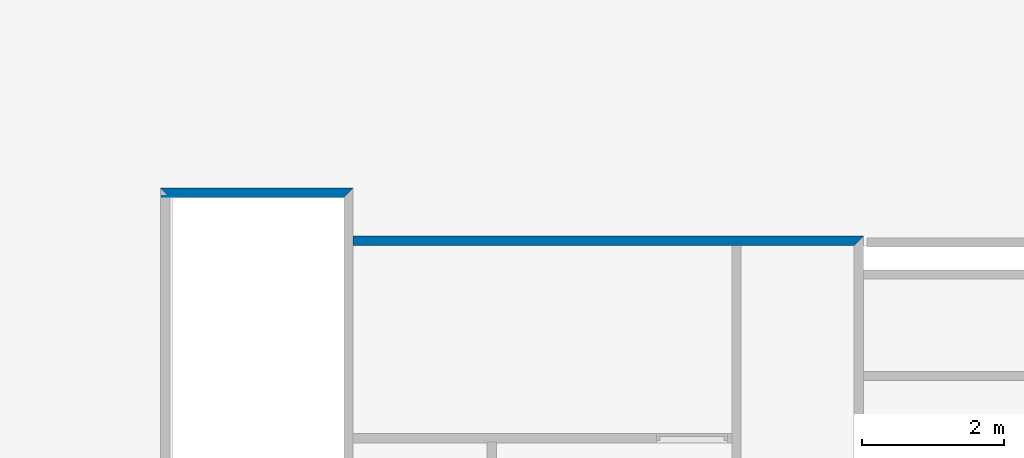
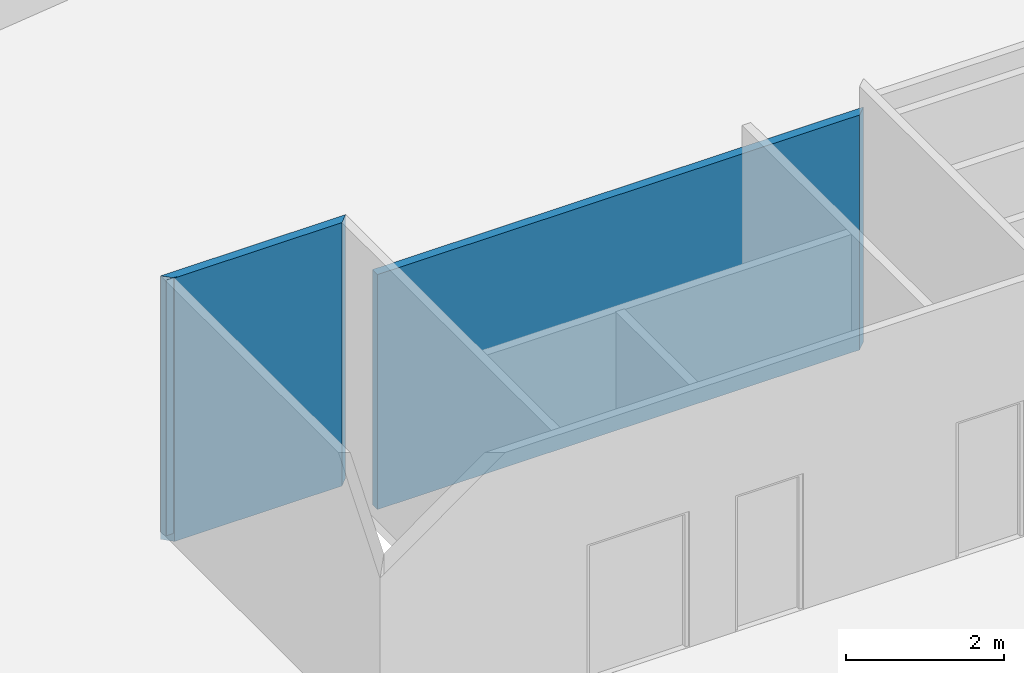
# One storey, part 3 of 9: 4 walls.
"""IFC2X3 building model written with IfcOpenShell, lengths in metres."""

from ifc_helpers import new_model, entity, si_unit, converted_unit, money_unit, direction, frame, origin_with_axes, place, context, subcontext, project, spatial, polyline, outline, extrude, material, layer, layer_set, layer_usage, type_object, element, save


model = new_model("IFC2X3")

# Units and contexts
model_context = context("Model", 3, precision=1e-05, world=origin_with_axes(), true_north=direction((0.0, 1.0)))
body_context = subcontext(model_context, "Body", "Model", "MODEL_VIEW")
ifc_project = project(units=[si_unit("LENGTHUNIT", "METRE"), si_unit("AREAUNIT", "SQUARE_METRE"), si_unit("VOLUMEUNIT", "CUBIC_METRE"), converted_unit("PLANEANGLEUNIT", "DEGREE", entity("IfcPlaneAngleMeasure", 0.0174532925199), si_unit("PLANEANGLEUNIT", "RADIAN"), dimensions=[0, 0, 0, 0, 0, 0, 0]), si_unit("SOLIDANGLEUNIT", "STERADIAN"), money_unit("EUR"), converted_unit("TIMEUNIT", "Year", entity("IfcTimeMeasure", 31556926.0), si_unit("TIMEUNIT", "SECOND"), dimensions=[0, 0, 0, 0, 0, 0, 0]), si_unit("MASSUNIT", "GRAM"), si_unit("THERMODYNAMICTEMPERATUREUNIT", "DEGREE_CELSIUS"), si_unit("LUMINOUSINTENSITYUNIT", "LUMEN")], contexts=[model_context])

# Site, building, storey
site_placement = place(None, origin_with_axes())
site = spatial("IfcSite", under=ifc_project, at=site_placement, Name="Undefined", CompositionType="ELEMENT")
building_placement = place(site_placement, origin_with_axes())
building = spatial("IfcBuilding", under=site, at=building_placement, Name="Undefined", CompositionType="ELEMENT")
storey_placement = place(building_placement, frame((0.0, 0.0, 13.45), z_axis=(0.0, 0.0, 1.0), x_axis=(1.0, 0.0, 0.0)))
storey = spatial("IfcBuildingStorey", under=building, at=storey_placement, Name="R+2", CompositionType="ELEMENT", Elevation=13.45)

# Walls
ifc_material_1 = material(Name="Finition int - Enduit pl\x89tre")
ifc_layer_1 = layer(ifc_material_1, 0.015, ventilated="UNKNOWN")
ifc_material_2 = material(Name="Struct. - Parpaing b\x8eton")
ifc_layer_2 = layer(ifc_material_2, 0.1, ventilated="UNKNOWN")
ifc_layer_3 = layer(ifc_material_1, 0.015, ventilated="UNKNOWN")
ifc_layer_set_1 = layer_set([ifc_layer_1, ifc_layer_2, ifc_layer_3], Name="0.0-Cloison: parpaing + pl\x89tre 2 faces copie")
ifc_layer_usage_1 = layer_usage(ifc_layer_set_1, "AXIS2", "POSITIVE", 0.0)
wall_type_1 = type_object("IfcWallType", Name="0.0-Cloison: parpaing + pl\x89tre 2 faces copie 130", PredefinedType="NOTDEFINED")
wall_1_placement = place(storey_placement, frame((49.6599999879, 13.935, -0.12), z_axis=(0.0, 0.0, 1.0), x_axis=(1.0, 0.0, 0.0)))
element("IfcWallStandardCase", 1, at=wall_1_placement, inside=storey, type_object=wall_type_1, material=ifc_layer_usage_1, Name="Wall_Int_02", context=body_context, shape_type="SweptSolid", body=[
    extrude(outline(polyline([(0.13, 0.0), (7.17500001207, 0.0), (7.30500001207, 0.13), (0.13, 0.13), (0.13, 0.0)])), origin_with_axes(), (0.0, 0.0, 1.0), 3.63),
])
ifc_layer_usage_2 = layer_usage(ifc_layer_set_1, "AXIS2", "POSITIVE", 0.0)
wall_2_placement = place(storey_placement, frame((47.085, 14.609958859, -0.12), z_axis=(0.0, 0.0, 1.0), x_axis=(1.0, 0.0, 0.0)))
element("IfcWallStandardCase", 2, at=wall_2_placement, inside=storey, type_object=wall_type_1, material=ifc_layer_usage_2, Name="Wall_Int_02", context=body_context, shape_type="SweptSolid", body=[
    extrude(outline(polyline([(0.13, 0.0), (2.57499998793, 0.0), (2.70499998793, 0.13), (0.0, 0.13), (0.13, 0.0)])), origin_with_axes(), (0.0, 0.0, 1.0), 4.07),
])
ifc_material_3 = material(Name="% Ê25 491054888")
ifc_layer_4 = layer(ifc_material_3, 0.15, ventilated="UNKNOWN")
ifc_layer_set_2 = layer_set([ifc_layer_4], Name="% Ê25 491054888 0.15")
ifc_layer_usage_3 = layer_usage(ifc_layer_set_2, "AXIS2", "POSITIVE", 0.0)
wall_type_2 = type_object("IfcWallType", Name="% Ê25 491054888 150", PredefinedType="NOTDEFINED")
wall_3_placement = place(storey_placement, frame((47.1, 14.625, 0.0), z_axis=(0.0, 0.0, 1.0), x_axis=(0.0, -1.0, 0.0)))
element("IfcWallStandardCase", 3, at=wall_3_placement, inside=storey, type_object=wall_type_2, material=ifc_layer_usage_3, Name="Wall_Int_02", context=body_context, shape_type="SweptSolid", body=[
    extrude(outline(polyline([(0.0, 0.0), (0.00362344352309, 0.0), (0.00362344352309, 0.15), (0.0, 0.15), (0.0, 0.0)])), origin_with_axes(), (0.0, 0.0, 1.0), 3.95),
])
ifc_layer_usage_4 = layer_usage(ifc_layer_set_2, "AXIS2", "POSITIVE", 0.0)
wall_4_placement = place(storey_placement, frame((47.1, 14.625, 0.0), z_axis=(0.0, 0.0, 1.0), x_axis=(0.0, -1.0, 0.0)))
element("IfcWallStandardCase", 4, at=wall_4_placement, inside=storey, type_object=wall_type_2, material=ifc_layer_usage_4, Name="Wall_Int_02", context=body_context, shape_type="SweptSolid", body=[
    extrude(outline(polyline([(0.0, 0.0), (0.00339848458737, 0.0), (0.00339848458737, 0.15), (0.0, 0.15), (0.0, 0.0)])), origin_with_axes(), (0.0, 0.0, 1.0), 3.95),
])

save(model, "model.ifc")
